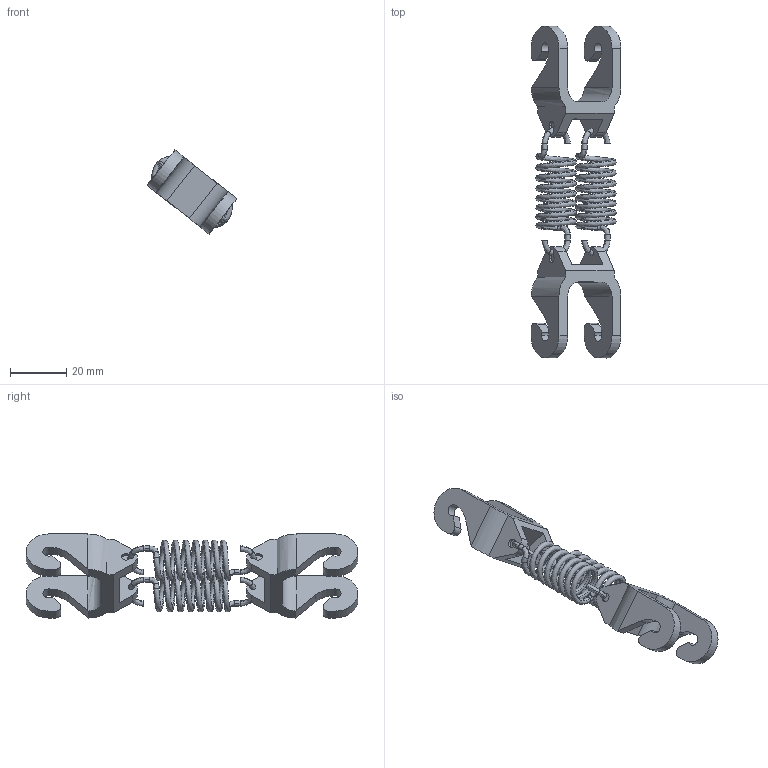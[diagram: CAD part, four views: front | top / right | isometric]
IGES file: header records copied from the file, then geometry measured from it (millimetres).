
Start section: SolidWorks IGES file using analytic representation for surfaces
Global section: file name: C:\Users\SELUHAA\OneDrive - ABB\Work items\609433\IRB360_8-1130-STD-4D_rev03\IRB360_8-1130-STD-4D_rev03_IGS_J\IRB360_8-1130-STD-4D_rev03_LA1_CL_CAD.igs; native system: SolidWorks 2022; preprocessor: SolidWorks 2022; author: SELUHAA; date: 250115.102543; units: millimetre
Bounding box: 31.9 x 118 x 29.88 mm (x, y, z)
Volume: 11802.8 mm3; surface area: 10699.5 mm2
Topology: 1 solids, 1 shells, 156 faces, 420 edges, 272 vertices
Faces by surface type: plane 54, bspline 52, revolution 50
